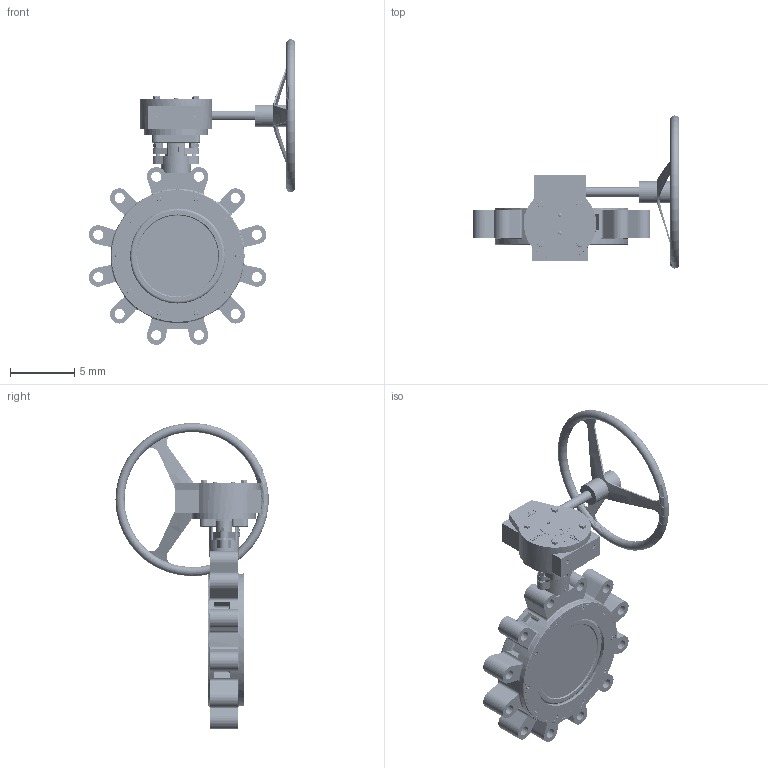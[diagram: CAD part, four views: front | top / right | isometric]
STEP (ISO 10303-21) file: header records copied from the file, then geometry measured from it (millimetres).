
FILE_DESCRIPTION(('Open CASCADE Model'),'2;1');
FILE_NAME('Open CASCADE Shape Model','2022-07-22T11:49:33',('Author'),( 'Open CASCADE'),'Open CASCADE STEP processor 7.3','Open CASCADE 7.3' ,'Unknown');
FILE_SCHEMA(('AUTOMOTIVE_DESIGN { 1 0 10303 214 1 1 1 1 }'));
Length unit declared in the file: millimetre
Products named in the file (46): Open CASCADE STEP translator 7.3 1; Open CASCADE STEP translator 7.3 1.1; Open CASCADE STEP translator 7.3 1.2; Open CASCADE STEP translator 7.3 1.3; Open CASCADE STEP translator 7.3 1.4; Open CASCADE STEP translator 7.3 1.5; Open CASCADE STEP translator 7.3 1.6; Open CASCADE STEP translator 7.3 1.7; Open CASCADE STEP translator 7.3 1.8; Open CASCADE STEP translator 7.3 1.9; Open CASCADE STEP translator 7.3 1.10; Open CASCADE STEP translator 7.3 1.11; Open CASCADE STEP translator 7.3 1.12; Open CASCADE STEP translator 7.3 1.13; Open CASCADE STEP translator 7.3 1.14; Open CASCADE STEP translator 7.3 1.15; Open CASCADE STEP translator 7.3 1.16; Open CASCADE STEP translator 7.3 1.17; Open CASCADE STEP translator 7.3 1.18; Open CASCADE STEP translator 7.3 1.19; Open CASCADE STEP translator 7.3 1.20; Open CASCADE STEP translator 7.3 1.21; Open CASCADE STEP translator 7.3 1.22; Open CASCADE STEP translator 7.3 1.23; Open CASCADE STEP translator 7.3 1.24; Open CASCADE STEP translator 7.3 1.25; Open CASCADE STEP translator 7.3 1.26; Open CASCADE STEP translator 7.3 1.27; Open CASCADE STEP translator 7.3 1.28; Open CASCADE STEP translator 7.3 1.29; Open CASCADE STEP translator 7.3 1.30; Open CASCADE STEP translator 7.3 1.31; Open CASCADE STEP translator 7.3 1.32; Open CASCADE STEP translator 7.3 1.33; Open CASCADE STEP translator 7.3 1.34; Open CASCADE STEP translator 7.3 1.35; Open CASCADE STEP translator 7.3 1.36; Open CASCADE STEP translator 7.3 1.37; Open CASCADE STEP translator 7.3 1.38; Open CASCADE STEP translator 7.3 1.39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
Assembly tree (45 placements, depth 2):
  Open CASCADE STEP translator 7.3 1
    Open CASCADE STEP translator 7.3 1.1
    Open CASCADE STEP translator 7.3 1.2
    Open CASCADE STEP translator 7.3 1.3
    Open CASCADE STEP translator 7.3 1.4
    Open CASCADE STEP translator 7.3 1.5
    Open CASCADE STEP translator 7.3 1.6
    Open CASCADE STEP translator 7.3 1.7
    Open CASCADE STEP translator 7.3 1.8
    Open CASCADE STEP translator 7.3 1.9
    Open CASCADE STEP translator 7.3 1.10
    Open CASCADE STEP translator 7.3 1.11
    Open CASCADE STEP translator 7.3 1.12
    Open CASCADE STEP translator 7.3 1.13
    Open CASCADE STEP translator 7.3 1.14
    Open CASCADE STEP translator 7.3 1.15
    Open CASCADE STEP translator 7.3 1.16
    Open CASCADE STEP translator 7.3 1.17
    Open CASCADE STEP translator 7.3 1.18
    Open CASCADE STEP translator 7.3 1.19
    Open CASCADE STEP translator 7.3 1.20
    Open CASCADE STEP translator 7.3 1.21
    Open CASCADE STEP translator 7.3 1.22
    Open CASCADE STEP translator 7.3 1.23
    Open CASCADE STEP translator 7.3 1.24
    Open CASCADE STEP translator 7.3 1.25
    Open CASCADE STEP translator 7.3 1.26
    Open CASCADE STEP translator 7.3 1.27
    Open CASCADE STEP translator 7.3 1.28
    Open CASCADE STEP translator 7.3 1.29
    Open CASCADE STEP translator 7.3 1.30
    Open CASCADE STEP translator 7.3 1.31
    Open CASCADE STEP translator 7.3 1.32
    Open CASCADE STEP translator 7.3 1.33
    Open CASCADE STEP translator 7.3 1.34
    Open CASCADE STEP translator 7.3 1.35
    Open CASCADE STEP translator 7.3 1.36
    Open CASCADE STEP translator 7.3 1.37
    Open CASCADE STEP translator 7.3 1.38
    Open CASCADE STEP translator 7.3 1.39
    Open CASCADE STEP translator 7.3 1.40
    Open CASCADE STEP translator 7.3 1.41
    Open CASCADE STEP translator 7.3 1.42
    Open CASCADE STEP translator 7.3 1.43
    Open CASCADE STEP translator 7.3 1.44
    Open CASCADE STEP translator 7.3 1.45
Bounding box: 16.09 x 11.92 x 23.81 mm (x, y, z)
Volume: 314.6 mm3; surface area: 1304.8 mm2
Topology: 45 solids, 45 shells, 1242 faces, 2910 edges, 1884 vertices
Faces by surface type: plane 627, cylinder 290, cone 154, bspline 92, torus 68, sphere 9, revolution 2
Full cylindrical faces by diameter (mm): 0.118 x1, 0.158 x3, 0.163 x2, 0.165 x2, 0.197 x6, 0.217 x20, 0.236 x4, 0.276 x2, 0.315 x8, 0.33 x4, 0.355 x20, 0.394 x6, 0.473 x6, 0.749 x2, 0.785 x12, 0.985 x1, 1.103 x1, 1.261 x9, 1.273 x1, 1.28 x1, 1.3 x1, 1.322 x2, 1.324 x2, 1.714 x2, 1.718 x2, 1.734 x4, 2.285 x1, 4.925 x1, 7.407 x1, 7.573 x1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
Entity records: 212402 total; most frequent: CARTESIAN_POINT 154956, DIRECTION 9946, ORIENTED_EDGE 5818, PCURVE 5818, DEFINITIONAL_REPRESENTATION 5818, LINE 5099, VECTOR 5099, EDGE_CURVE 2909
